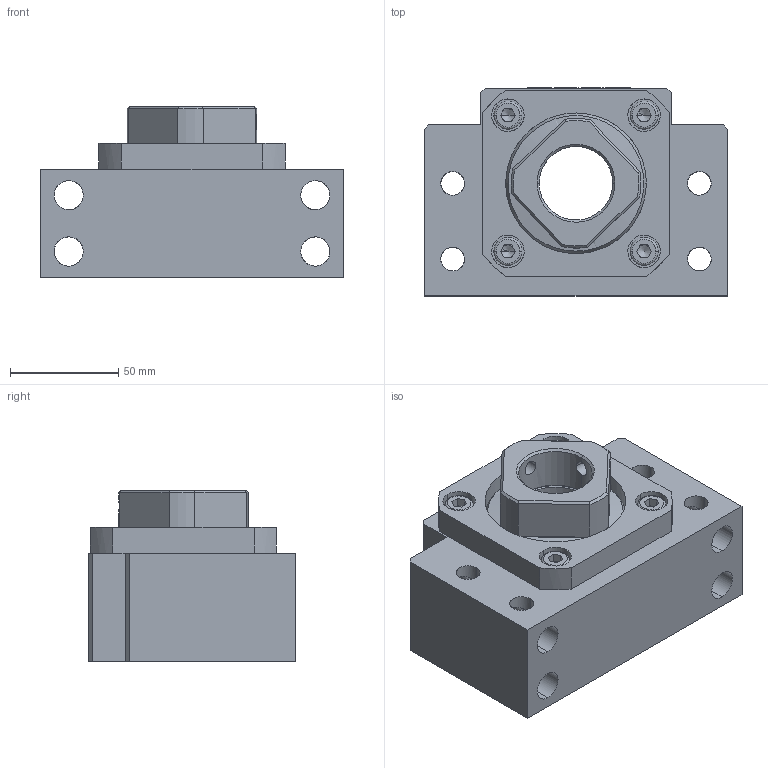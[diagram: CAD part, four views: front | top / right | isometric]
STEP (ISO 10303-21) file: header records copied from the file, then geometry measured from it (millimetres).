
FILE_DESCRIPTION (( 'STEP AP214' ), '1' );
FILE_NAME ('7.4007 BK35.STEP', '2026-03-06T06:24:26', ( '' ), ( '' ), 'SwSTEP 2.0', 'SolidWorks 2025', '' );
FILE_SCHEMA (( 'AUTOMOTIVE_DESIGN' ));
Length unit declared in the file: millimetre
Products named in the file (1): 7.4007 BK35
Bounding box: 140 x 96.1 x 79 mm (x, y, z)
Surface area: 90700.9 mm2 (no closed solid volume)
Topology: 0 solids, 14 shells, 242 faces, 687 edges, 448 vertices
Faces by surface type: plane 111, cylinder 69, cone 33, bspline 29
Entity records: 18745 total; most frequent: CARTESIAN_POINT 13854, ORIENTED_EDGE 1275, EDGE_CURVE 680, B_SPLINE_CURVE_WITH_KNOTS 663, VERTEX_POINT 448, DIRECTION 429, EDGE_LOOP 288, ADVANCED_FACE 242
